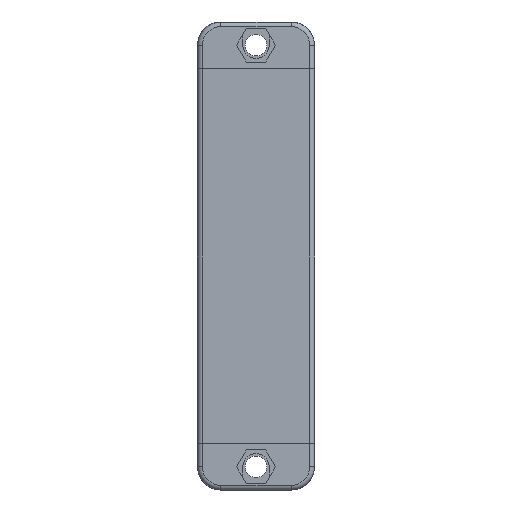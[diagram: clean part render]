
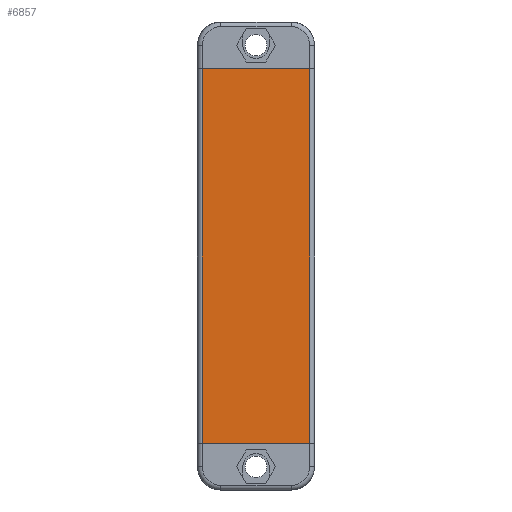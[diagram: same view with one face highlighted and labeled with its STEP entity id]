
A CAD part, front view. The second image highlights one B-rep face of the part: STEP entity #6857.
In plain terms, the highlighted planar face has unit normal (0, -1, 0).
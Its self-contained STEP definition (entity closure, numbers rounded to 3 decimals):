
#186 = VECTOR ( 'NONE', #11089, 1000. ) ;
#718 = EDGE_CURVE ( 'NONE', #5103, #9970, #10396, .T. ) ;
#1098 = ORIENTED_EDGE ( 'NONE', *, *, #6301, .F. ) ;
#1448 = VECTOR ( 'NONE', #11355, 1000. ) ;
#2072 = EDGE_CURVE ( 'NONE', #5103, #5774, #3938, .T. ) ;
#2466 = CARTESIAN_POINT ( 'NONE',  ( -11.5, -6., 80. ) ) ;
#2650 = DIRECTION ( 'NONE',  ( 0., 0., 1. ) ) ;
#2721 = AXIS2_PLACEMENT_3D ( 'NONE', #7049, #10586, #2650 ) ;
#2878 = VECTOR ( 'NONE', #11005, 1000. ) ;
#3526 = PLANE ( 'NONE',  #2721 ) ;
#3938 = LINE ( 'NONE', #7468, #2878 ) ;
#4018 = LINE ( 'NONE', #7555, #186 ) ;
#4294 = LINE ( 'NONE', #7828, #1448 ) ;
#4324 = CARTESIAN_POINT ( 'NONE',  ( 11.5, -6., 0. ) ) ;
#4411 = VERTEX_POINT ( 'NONE', #4324 ) ;
#4710 = EDGE_CURVE ( 'NONE', #9970, #4411, #4018, .T. ) ;
#5103 = VERTEX_POINT ( 'NONE', #8529 ) ;
#5774 = VERTEX_POINT ( 'NONE', #8480 ) ;
#5994 = DIRECTION ( 'NONE',  ( 0., 0., -1. ) ) ;
#6301 = EDGE_CURVE ( 'NONE', #5774, #4411, #4294, .T. ) ;
#6793 = VECTOR ( 'NONE', #5994, 1000. ) ;
#6857 = ADVANCED_FACE ( 'NONE', ( #11455 ), #3526, .F. ) ;
#7049 = CARTESIAN_POINT ( 'NONE',  ( -0.005, -6., 80. ) ) ;
#7468 = CARTESIAN_POINT ( 'NONE',  ( -11.5, -6., 80. ) ) ;
#7555 = CARTESIAN_POINT ( 'NONE',  ( -0.005, -6., 0. ) ) ;
#7828 = CARTESIAN_POINT ( 'NONE',  ( 11.5, -6., 80. ) ) ;
#8480 = CARTESIAN_POINT ( 'NONE',  ( 11.5, -6., 80. ) ) ;
#8529 = CARTESIAN_POINT ( 'NONE',  ( -11.5, -6., 80. ) ) ;
#8700 = ORIENTED_EDGE ( 'NONE', *, *, #4710, .T. ) ;
#8746 = EDGE_LOOP ( 'NONE', ( #8700, #1098, #11235, #9198 ) ) ;
#9198 = ORIENTED_EDGE ( 'NONE', *, *, #718, .T. ) ;
#9970 = VERTEX_POINT ( 'NONE', #11156 ) ;
#10396 = LINE ( 'NONE', #2466, #6793 ) ;
#10586 = DIRECTION ( 'NONE',  ( 0., 1., 0. ) ) ;
#11005 = DIRECTION ( 'NONE',  ( 1., 0., 0. ) ) ;
#11089 = DIRECTION ( 'NONE',  ( 1., 0., 0. ) ) ;
#11156 = CARTESIAN_POINT ( 'NONE',  ( -11.5, -6., 0. ) ) ;
#11235 = ORIENTED_EDGE ( 'NONE', *, *, #2072, .F. ) ;
#11355 = DIRECTION ( 'NONE',  ( 0., 0., -1. ) ) ;
#11455 = FACE_OUTER_BOUND ( 'NONE', #8746, .T. ) ;
